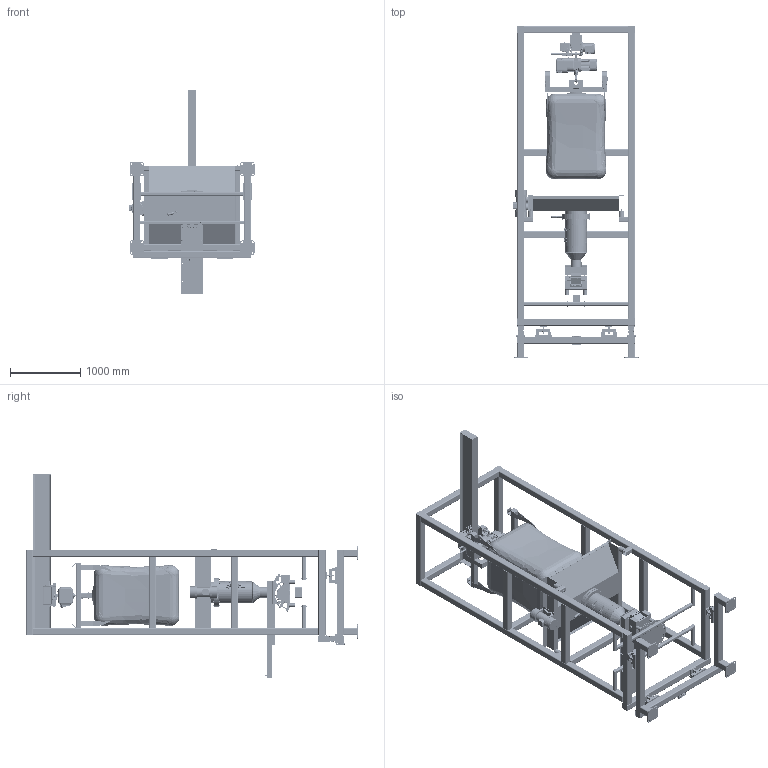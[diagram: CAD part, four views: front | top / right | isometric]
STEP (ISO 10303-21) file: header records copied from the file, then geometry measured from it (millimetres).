
FILE_DESCRIPTION(/* description */ ('Bagflo 500 HT w Vib Feeder'),/* implementation_level */ '2;1');
FILE_NAME(/* name */ 'Z:\CUSTOMER ORDERS\A\Amy''s Kitchen\Amy''s Kitchen White City #2\Inventor\005928 - Bagflo 500 HT w Vib Feeder.stp',/* time_stamp */ '2021-07-15T14:36:21-05:00',/* author */ ('rwest'),/* organization */ (''),/* preprocessor_version */ 'ST-DEVELOPER v17',/* originating_system */ 'Autodesk Inventor 2019',/* authorisation */ '');
FILE_SCHEMA (('AUTOMOTIVE_DESIGN { 1 0 10303 214 3 1 1 }'));
Products named in the file (94): 005928 ; 005933; 005934 ; 8 x 8 x 1/2; AISC - 4 x 4 x 1/4 - 7.5; 000009; Bag Pan Ring; AISC - 55.5x48 - 0.1345; Bag Pan 48 Channel; AISC - L 3 x 3 x 1/4 - 8.5; Bag Pan Collar; Bag Pan Ramp; IV-12-S4; Iris Ring; Iris Handle; 005558; 000038; Access Door Chamber; Access Door; Hinge - Access Door; Hinge Pin; Hinge 3 Hoop; Hinge 2 Hoop; Latch; Base; Arm; Bolt; Latch Handle; Latch Lock; Latch Part 1; Latch Part 2; Latch_1; Nut; 005559 Transition 12 RD to 6 RD; 12-5/8x1-1/16x10 Gauge; 8in ODx2x10 Gauge; 16" OD x 12 ID; Bolted Connection; ANSI/ASME B18.2.1 - 5/16-18 UNC - 1; ANSI B18.21.1 - 0.3125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
Assembly tree (210 placements, depth 5):
  005928 
    005933
      005934   x4
      8 x 8 x 1/2  x4
      AISC - 4x4x1/4 - 66
      AISC - 4 x 4 x 1/4 - 7.5  x4
      3-1/2x3-1/2x10G-CS  x4
      AISC - 4x4x1/4 - 48  x2
    000009
      Bag Pan Ring
      AISC - 55.5x48 - 0.1345
      Bag Pan 48 Channel  x2
      AISC - L 3 x 3 x 1/4 - 8.5  x2
      Bag Pan Collar
      Bag Pan Ramp  x2
    IV-12-S4
      Iris Ring
      Iris Handle
    005558
      000038
        Access Door Chamber
        Access Door
        Hinge - Access Door  x2
          Hinge Pin
          Hinge 3 Hoop
          Hinge 2 Hoop
        Latch  x2
          Base
          Arm
          Bolt
          Latch Handle
          Latch Lock
          Latch Part 1
          Latch Part 2
          Latch_1
          Nut
      005559 Transition 12 RD to 6 RD
        12-5/8x1-1/16x10 Gauge  x2
        8in ODx2x10 Gauge
    16" OD x 12 ID  x2
    Bolted Connection
      ANSI B18.22.1 - 5/16 - Regular - Type B  x4
      ANSI B18.21.1 - 0.3125  x4
      ANSI/ASME B18.2.1 - 5/16-18 UNC - 1  x4
    Bag
      Bag  44x44x40
      Bag Straps  x4
    AJB540S
    000004
    J-5425-1  x4
    006167
      005930
        AISC - 4x4x1/4 - 48  x4
        005935  x4
        AISC - 4x4x1/4 - 58  x4
        AISC - 4x4x1/4 - 66
        AISC - 4 x 4 x 1/4 - 160  x4
        AISC - S 10 x 25.4 - 90
        AISC - L  3 x 3 x 1_4 - 7.5  x2
        4.171 x 8 x 1_4 
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Bounding box: 1781.15 x 4728.21 x 2898.75 mm (x, y, z)
Volume: 1038614082.4 mm3; surface area: 56988970.7 mm2
Topology: 266 solids, 320 shells, 13615 faces, 34928 edges, 22153 vertices
Faces by surface type: plane 6693, cylinder 3848, cone 1392, bspline 833, torus 649, sphere 200
Full cylindrical faces by diameter (mm): 2.5 x2, 2.54 x1, 2.794 x8, 3 x12, 3.048 x8, 3.175 x10, 4 x19, 4.762 x10, 4.763 x4, 4.851 x2, 5 x4, 5.08 x4, 5.6 x8, 6 x6, 6.35 x10, 7 x9, 7.144 x2, 7.62 x4, 7.798 x8, 7.887 x4, 7.938 x12, 8 x58, 8.001 x12, 8.382 x1, 8.731 x8, 8.738 x4, 9 x1, 9.525 x58, 9.855 x8, 10 x17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
Entity records: 412569 total; most frequent: CARTESIAN_POINT 143216, ORIENTED_EDGE 55916, DIRECTION 55439, EDGE_CURVE 27961, AXIS2_PLACEMENT_3D 20606, VERTEX_POINT 17856, LINE 14227, VECTOR 14227
